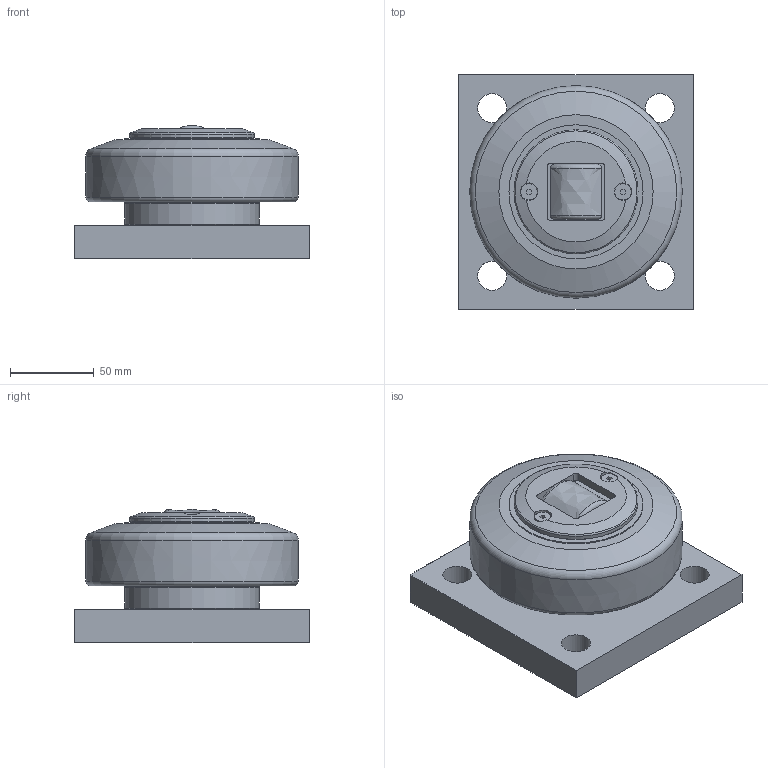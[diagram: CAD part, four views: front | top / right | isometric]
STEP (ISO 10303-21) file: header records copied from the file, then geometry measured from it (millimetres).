
FILE_DESCRIPTION(/* description */ ('-','CAx-IF Rec.Pracs.---Representation and Presentation of Product Manufacturing Information (PMI)---4.0---2014-10-13'),/* implementation_level */ '2;1');
FILE_NAME(/* name */ 'c:\temp\d97876d2-119f-4a6c-b2fe-84db84995015\ddbae808-397d-49f0-9680-a7f82640b685.stp',/* time_stamp */ '2020-04-01T16:50:57+02:00',/* author */ ('-'),/* organization */ ('NTI CADcenter A/S'),/* preprocessor_version */ 'ST-DEVELOPER v18',/* originating_system */ 'Autodesk Inventor 2020',/* authorisation */ '-');
FILE_SCHEMA (('AP242_MANAGED_MODEL_BASED_3D_ENGINEERING_MIM_LF { 1 0 10303 442 1 1 4 }'));
Length unit declared in the file: millimetre
Products named in the file (1): XTR 120.0300 BQ1000_Kontur
Bounding box: 140 x 140 x 79.5 mm (x, y, z)
Volume: 913234 mm3; surface area: 86460.1 mm2
Topology: 1 solids, 1 shells, 82 faces, 219 edges, 148 vertices
Faces by surface type: plane 40, cylinder 24, cone 11, torus 5, bspline 2
Full cylindrical faces by diameter (mm): 9.75 x2, 10.5 x2, 17.294 x4, 74 x1, 80 x3
Entity records: 2760 total; most frequent: CARTESIAN_POINT 594, DIRECTION 457, ORIENTED_EDGE 438, EDGE_CURVE 219, AXIS2_PLACEMENT_3D 173, VERTEX_POINT 148, LINE 111, VECTOR 111
